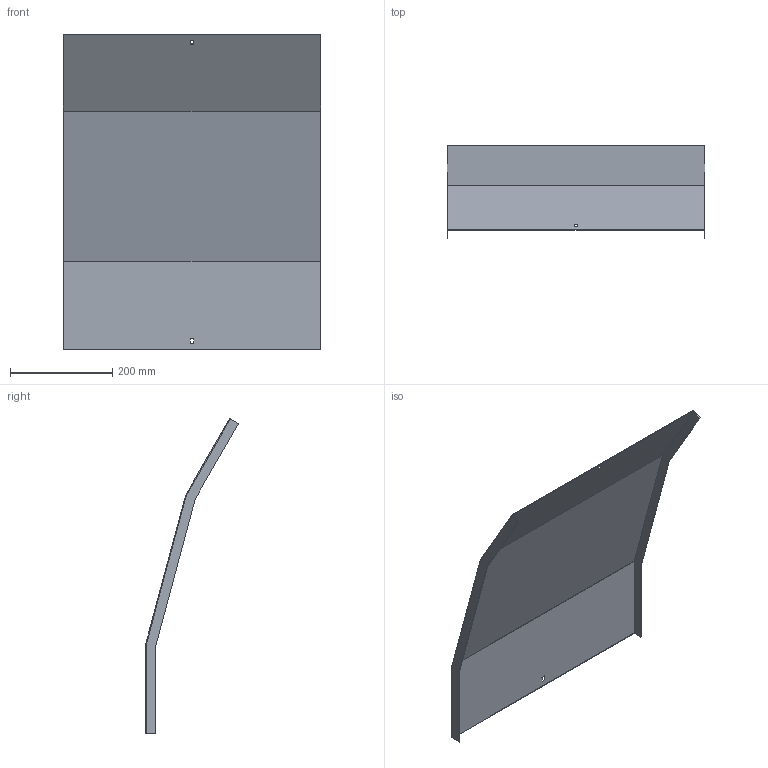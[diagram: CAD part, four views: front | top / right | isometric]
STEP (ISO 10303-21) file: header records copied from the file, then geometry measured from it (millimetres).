
FILE_DESCRIPTION (( 'STEP AP214' ), '1' );
FILE_NAME ('35N5F500.step', '2025-02-21T14:24:19', ( '' ), ( '' ), 'SwSTEP 2.0', 'SolidWorks 2023', '' );
FILE_SCHEMA (( 'AUTOMOTIVE_DESIGN' ));
Length unit declared in the file: millimetre
Products named in the file (1): 35N5F500
Bounding box: 503 x 182.13 x 615.07 mm (x, y, z)
Volume: 524523.4 mm3; surface area: 702992.7 mm2
Topology: 1 solids, 1 shells, 26 faces, 72 edges, 48 vertices
Faces by surface type: plane 26
Entity records: 847 total; most frequent: CARTESIAN_POINT 147, ORIENTED_EDGE 144, DIRECTION 126, EDGE_CURVE 72, VECTOR 72, LINE 72, VERTEX_POINT 48, EDGE_LOOP 30
